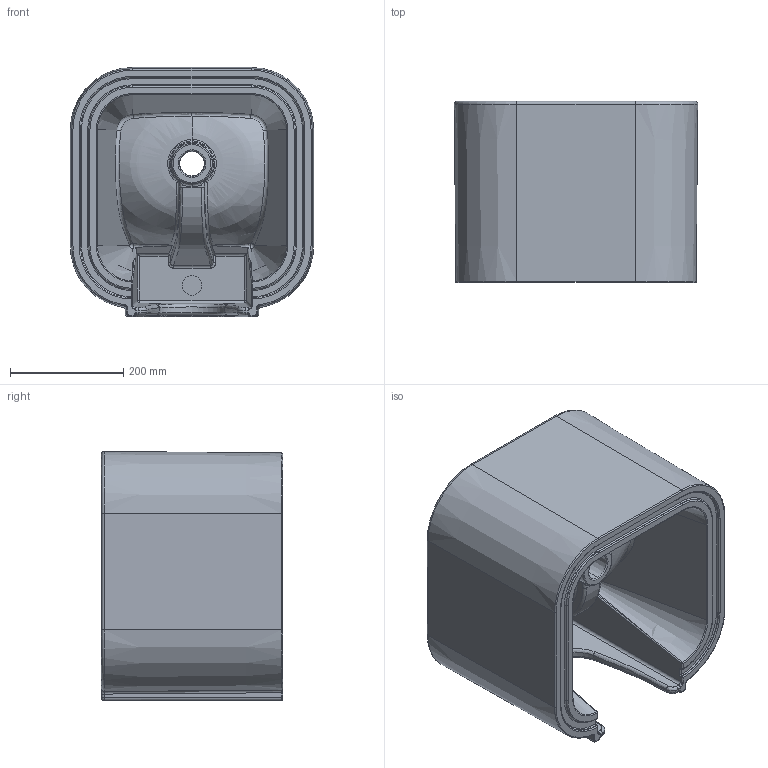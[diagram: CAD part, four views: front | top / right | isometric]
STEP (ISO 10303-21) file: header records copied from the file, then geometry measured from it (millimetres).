
FILE_DESCRIPTION (( 'STEP AP203' ), '1' );
FILE_NAME ('TALP04443000.STEP', '2019-08-07T15:15:58', ( '' ), ( '' ), 'SwSTEP 2.0', 'SolidWorks 2019', '' );
FILE_SCHEMA (( 'CONFIG_CONTROL_DESIGN' ));
Products named in the file (1): TALP04443000
Bounding box: 429.91 x 320 x 439.96 mm (x, y, z)
Volume: 24318290.6 mm3; surface area: 1161345.7 mm2
Topology: 1 solids, 1 shells, 273 faces, 661 edges, 376 vertices
Faces by surface type: bspline 74, cylinder 73, torus 61, plane 35, cone 16, sphere 14
Entity records: 61285 total; most frequent: CARTESIAN_POINT 55408, ORIENTED_EDGE 1290, DIRECTION 1173, EDGE_CURVE 645, AXIS2_PLACEMENT_3D 507, VERTEX_POINT 376, CIRCLE 307, EDGE_LOOP 281
